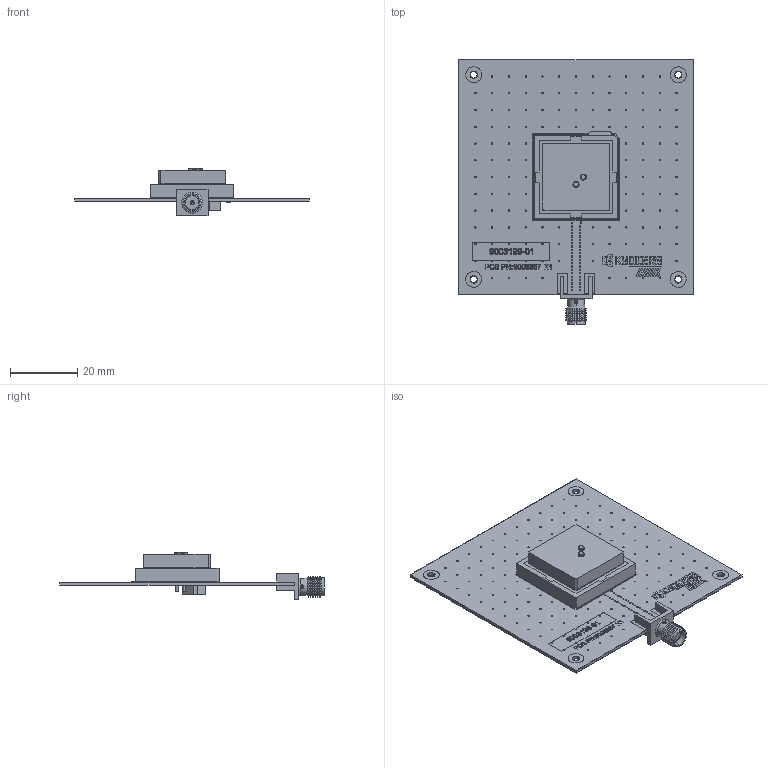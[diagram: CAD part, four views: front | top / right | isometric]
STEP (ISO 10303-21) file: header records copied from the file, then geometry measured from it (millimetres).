
FILE_DESCRIPTION((''),'2;1');
FILE_NAME('9003199-01_X2','2026-05-04T',('gfichot'),(''),'CREO PARAMETRIC BY PTC INC, 2016130','CREO PARAMETRIC BY PTC INC, 2016130','');
FILE_SCHEMA(('CONFIG_CONTROL_DESIGN'));
Products named in the file (1): 9003199-01_X2
Bounding box: 70 x 78.89 x 14.3 mm (x, y, z)
Surface area: 33606.8 mm2 (no closed solid volume)
Topology: 0 solids, 537 shells, 1776 faces, 4697 edges, 3740 vertices
Faces by surface type: plane 696, cylinder 611, extrusion 399, cone 54, bspline 16
Entity records: 60795 total; most frequent: CARTESIAN_POINT 19503, DIRECTION 7508, ORIENTED_EDGE 7492, EDGE_CURVE 4695, VERTEX_POINT 3740, AXIS2_PLACEMENT_3D 2623, VECTOR 2262, EDGE_LOOP 1984
